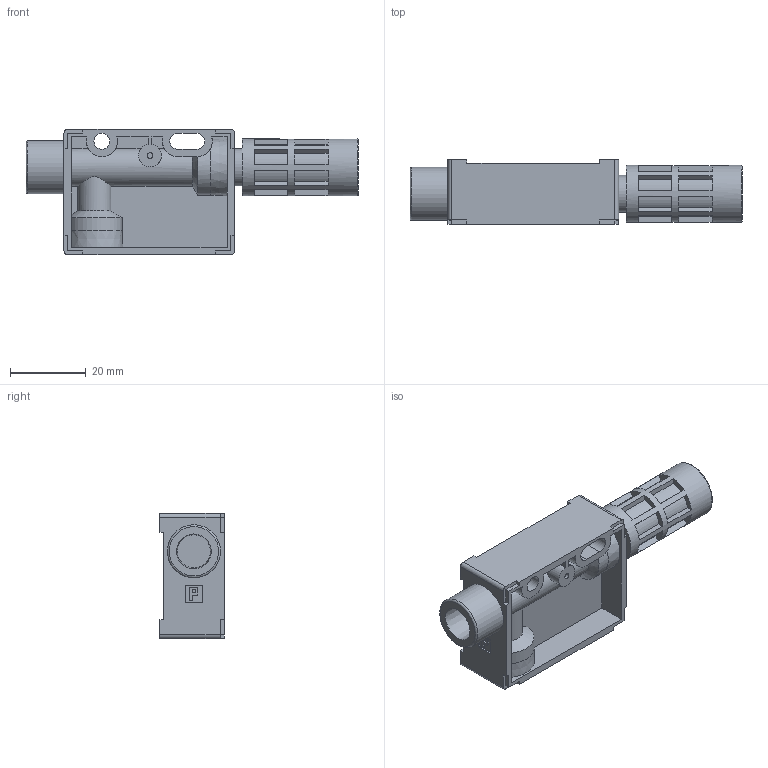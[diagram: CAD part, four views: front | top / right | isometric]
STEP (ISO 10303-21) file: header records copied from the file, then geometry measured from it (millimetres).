
FILE_DESCRIPTION(('STEP AP203'),'1');
FILE_NAME('_3D.stp','2022-12-22T08:42:29',(' '),(' '),'Spatial InterOp 3D',' ',' ');
FILE_SCHEMA(('CONFIG_CONTROL_DESIGN'));
Length unit declared in the file: millimetre
Products named in the file (3): 본체; BMSS-01
Assembly tree (2 placements, depth 2):
  (unnamed)
    본체
    BMSS-01
Bounding box: 87.5 x 17 x 33 mm (x, y, z)
Volume: 17233.4 mm3; surface area: 11928.9 mm2
Topology: 2 solids, 2 shells, 268 faces, 689 edges, 458 vertices
Faces by surface type: plane 195, cylinder 60, cone 11, torus 2
Full cylindrical faces by diameter (mm): 1.5 x2, 4.2 x1, 8.566 x1, 8.741 x3, 9.728 x1, 14 x1, 15 x1
Entity records: 8517 total; most frequent: CARTESIAN_POINT 1790, DIRECTION 1346, ORIENTED_EDGE 1346, EDGE_CURVE 673, LINE 478, VECTOR 478, VERTEX_POINT 457, AXIS2_PLACEMENT_3D 434
